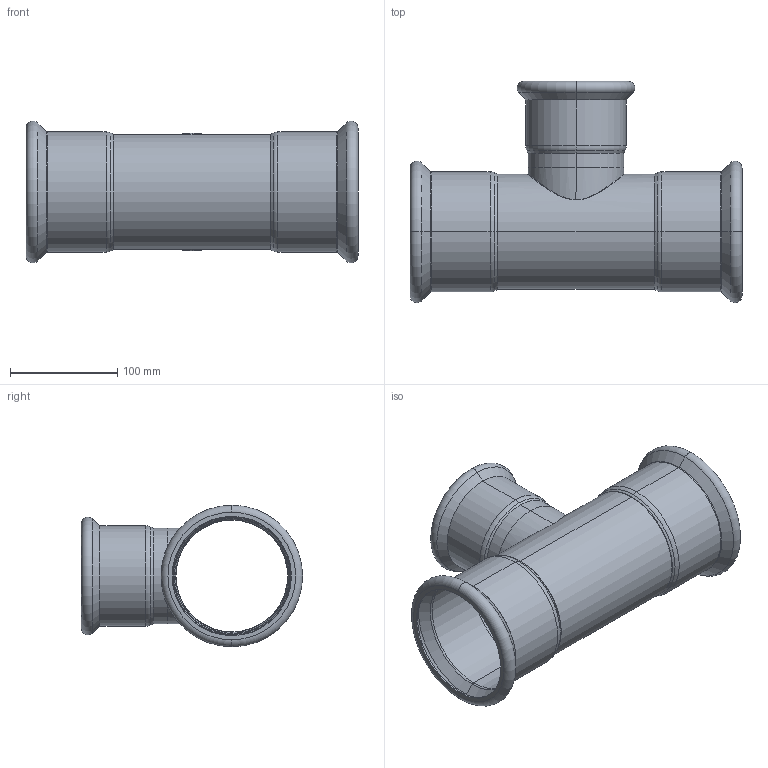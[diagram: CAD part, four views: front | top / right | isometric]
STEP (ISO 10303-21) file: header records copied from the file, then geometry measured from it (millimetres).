
FILE_DESCRIPTION (( 'STEP AP203' ), '1' );
FILE_NAME ('GDA5229.STEP', '2019-01-12T06:28:49', ( '' ), ( '' ), 'SwSTEP 2.0', 'SolidWorks 2015', '' );
FILE_SCHEMA (( 'CONFIG_CONTROL_DESIGN' ));
Length unit declared in the file: millimetre
Products named in the file (3): T(R)-¢ñ-108¡Á88.9''; GDA5229; T-ｉ-01-88.9
Assembly tree (2 placements, depth 2):
  GDA5229
    T(R)-¢ñ-108¡Á88.9''
    T-ｉ-01-88.9
Bounding box: 309 x 205.89 x 131.78 mm (x, y, z)
Volume: 223112.3 mm3; surface area: 279671.6 mm2
Topology: 2 solids, 2 shells, 110 faces, 226 edges, 124 vertices
Faces by surface type: torus 44, cylinder 30, cone 24, plane 8, bspline 4
Entity records: 4684 total; most frequent: CARTESIAN_POINT 1982, DIRECTION 596, ORIENTED_EDGE 452, AXIS2_PLACEMENT_3D 271, EDGE_CURVE 226, CIRCLE 160, VERTEX_POINT 124, EDGE_LOOP 120
